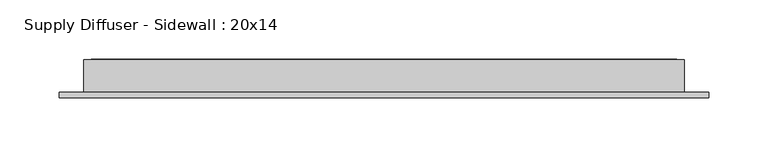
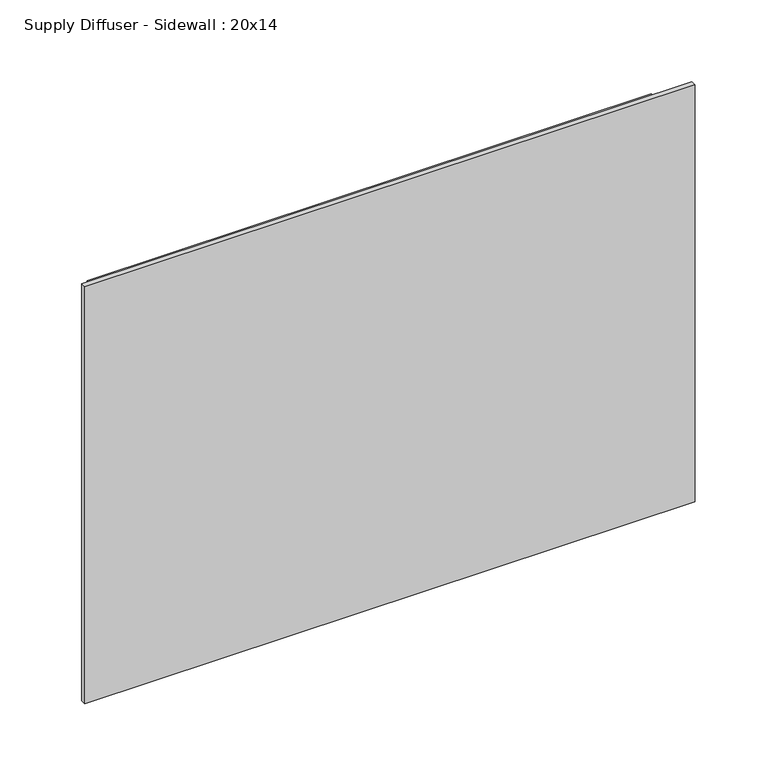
"""IFC4 building model written with IfcOpenShell, lengths in millimetres: air terminal geometry, Supply Diffuser - Sidewall : 20x14."""

from ifc_helpers import new_model, si_unit, origin, place, context, project, spatial, faceted_brep, source, transform, mapped, element, save


def supply_diffuser_sidewall_20x14_14557d91(model_context):
    return source(origin(), model_context, "Body", "Brep", [
        faceted_brep([(274.6375, -4.7625, 198.4375), (-274.6375, -4.7625, 198.4375), (-274.6375, -4.7625, -198.4375), (274.6375, -4.7625, -198.4375), (274.6375, 0.0, 198.4375), (274.6375, 0.0, -198.4375), (-274.6375, 0.0, -198.4375), (-274.6375, 0.0, 198.4375), (-254.0, 0.0, 177.8), (-254.0, 0.0, -177.8), (254.0, 0.0, -177.8), (254.0, 0.0, 177.8), (-254.0, 27.384375, 177.8), (254.0, 27.384375, 177.8), (254.0, 27.384375, -177.8), (-254.0, 27.384375, -177.8), (-247.65, 27.384375, 171.45), (-247.65, 27.384375, -171.45), (247.65, 27.384375, -171.45), (247.65, 27.384375, 171.45), (-247.65, 27.78125, 171.45), (247.65, 27.78125, 171.45), (247.65, 27.78125, -171.45), (-247.65, 27.78125, -171.45)], [[[0, 1, 2, 3]], [[4, 5, 6, 7], [8, 9, 10, 11]], [[1, 0, 4, 7]], [[2, 1, 7, 6]], [[3, 2, 6, 5]], [[0, 3, 5, 4]], [[12, 13, 14, 15], [16, 17, 18, 19]], [[12, 15, 9, 8]], [[15, 14, 10, 9]], [[14, 13, 11, 10]], [[13, 12, 8, 11]], [[20, 21, 22, 23]], [[20, 23, 17, 16]], [[23, 22, 18, 17]], [[22, 21, 19, 18]], [[21, 20, 16, 19]]]),
    ])


if __name__ == "__main__":
    model = new_model("IFC4")
    model_context = context("Model", 3, world=origin())
    ifc_project = project(units=[si_unit("LENGTHUNIT", "METRE", prefix="MILLI")], contexts=[model_context])
    site = spatial("IfcSite", under=ifc_project)
    building = spatial("IfcBuilding", under=site)
    placement = place(None, origin())
    supply_diffuser_sidewall_20x14_shape = supply_diffuser_sidewall_20x14_14557d91(model_context)
    element("IfcAirTerminal", 1, ObjectType="Supply Diffuser - Sidewall : 20x14", at=placement, inside=building, context=model_context, shape_type="MappedRepresentation", body=[
        mapped(supply_diffuser_sidewall_20x14_shape, transform((0.0, 0.0, 0.0), x_axis=(1.0, 0.0, 0.0), y_axis=(0.0, 1.0, 0.0), z_axis=(0.0, 0.0, 1.0))),
    ])
    save(model, "model.ifc")
